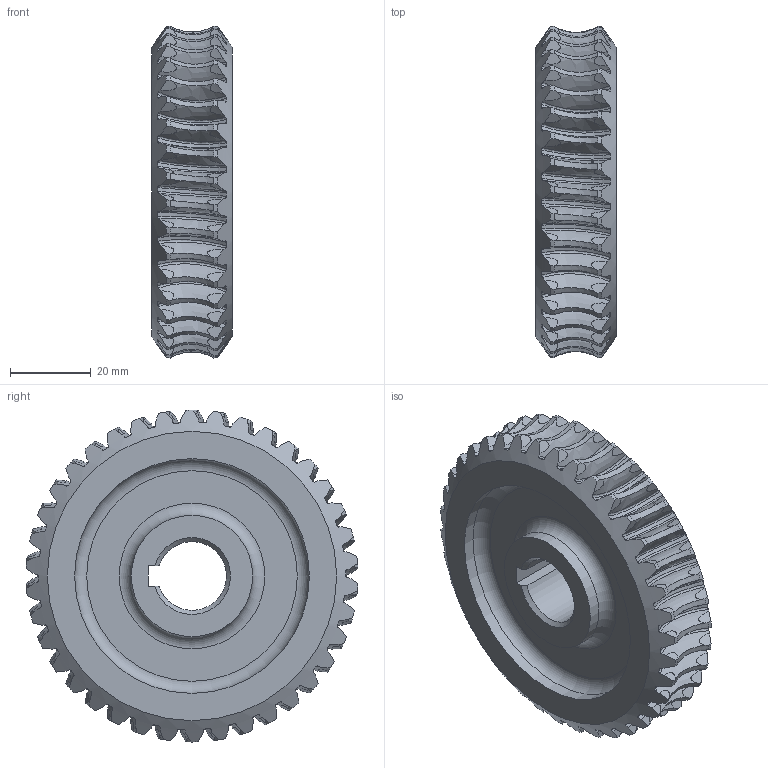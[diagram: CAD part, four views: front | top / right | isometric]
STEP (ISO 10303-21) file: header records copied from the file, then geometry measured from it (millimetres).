
FILE_DESCRIPTION(/* description */ (''),/* implementation_level */ '2;1');
FILE_NAME(/* name */ '',/* time_stamp */ '2026-01-30T14:33:09+09:00',/* author */ ('jhkim'),/* organization */ (''),/* preprocessor_version */ 'ST-DEVELOPER v20.1',/* originating_system */ 'Autodesk Inventor 2026',/* authorisation */ '');
FILE_SCHEMA (('AUTOMOTIVE_DESIGN { 1 0 10303 214 3 1 1 }'));
Products named in the file (1): 웜 윌
Bounding box: 20 x 81.92 x 82 mm (x, y, z)
Volume: 63673.1 mm3; surface area: 20543 mm2
Topology: 1 solids, 1 shells, 478 faces, 1416 edges, 944 vertices
Faces by surface type: bspline 342, cylinder 81, torus 42, plane 9, cone 4
Full cylindrical faces by diameter (mm): 30 x2, 58 x2
Entity records: 33643 total; most frequent: CARTESIAN_POINT 24091, ORIENTED_EDGE 2832, EDGE_CURVE 1416, B_SPLINE_CURVE_WITH_KNOTS 1218, VERTEX_POINT 944, DIRECTION 646, EDGE_LOOP 484, FACE_OUTER_BOUND 478
